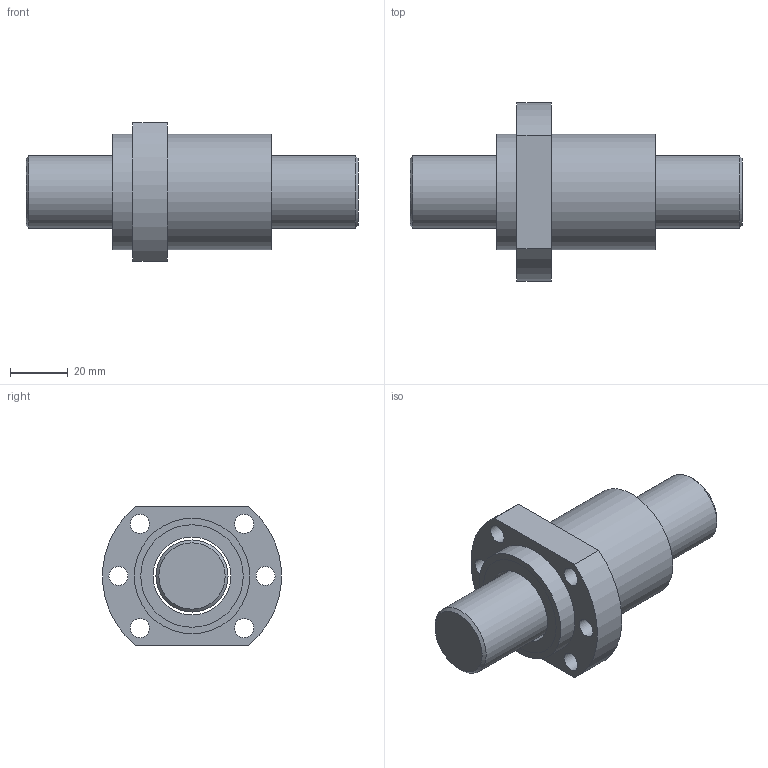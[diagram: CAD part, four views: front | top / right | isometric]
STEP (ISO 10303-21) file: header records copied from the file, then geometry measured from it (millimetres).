
FILE_DESCRIPTION(/* description */ (''),/* implementation_level */ '2;1');
FILE_NAME(/* name */ 'SFH2510-3.8.stp',/* time_stamp */ '2014-10-15T13:10:55+08:00',/* author */ (''),/* organization */ (''),/* preprocessor_version */ 'ST-DEVELOPER v11',/* originating_system */ 'SIEMENS UGS NX 6.0',/* authorisation */ '');
FILE_SCHEMA (('CONFIG_CONTROL_DESIGN'));
Length unit declared in the file: millimetre
Products named in the file (1): fannB1F9gmdj
Bounding box: 115 x 61.8 x 48 mm (x, y, z)
Volume: 108179.4 mm3; surface area: 32871.5 mm2
Topology: 4 solids, 4 shells, 50 faces, 90 edges, 60 vertices
Faces by surface type: cylinder 26, plane 22, cone 2
Full cylindrical faces by diameter (mm): 6.6 x6, 25 x1, 27 x3, 32 x4, 35.5 x4, 37 x4, 40 x2
Entity records: 1216 total; most frequent: DIRECTION 218, CARTESIAN_POINT 171, ORIENTED_EDGE 124, EDGE_LOOP 106, AXIS2_PLACEMENT_3D 105, FACE_BOUND 100, EDGE_CURVE 62, VERTEX_POINT 58
